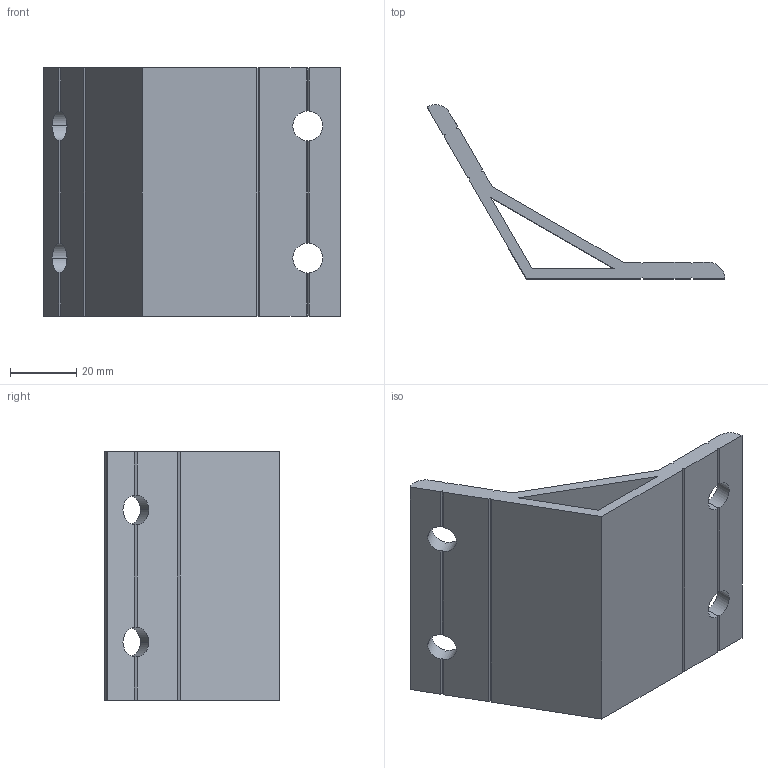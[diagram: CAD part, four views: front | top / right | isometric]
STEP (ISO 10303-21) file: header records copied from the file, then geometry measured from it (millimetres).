
FILE_DESCRIPTION (( 'STEP AP203' ), '1' );
FILE_NAME ('WA75120-8.STEP', '2024-02-19T06:18:23', ( '' ), ( '' ), 'SwSTEP 2.0', 'SolidWorks 2022', '' );
FILE_SCHEMA (( 'CONFIG_CONTROL_DESIGN' ));
Length unit declared in the file: millimetre
Products named in the file (1): WA75120-8
Bounding box: 90 x 52.63 x 75 mm (x, y, z)
Volume: 44013.1 mm3; surface area: 25941 mm2
Topology: 1 solids, 1 shells, 60 faces, 190 edges, 124 vertices
Faces by surface type: plane 50, cylinder 10
Entity records: 2175 total; most frequent: CARTESIAN_POINT 471, ORIENTED_EDGE 380, DIRECTION 308, EDGE_CURVE 190, LINE 130, VECTOR 130, VERTEX_POINT 124, AXIS2_PLACEMENT_3D 89
